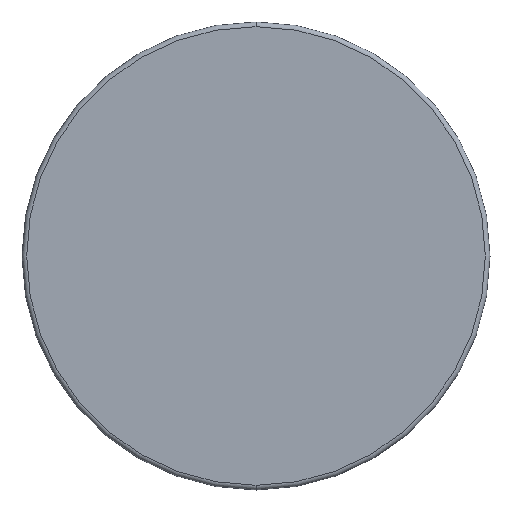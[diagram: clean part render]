
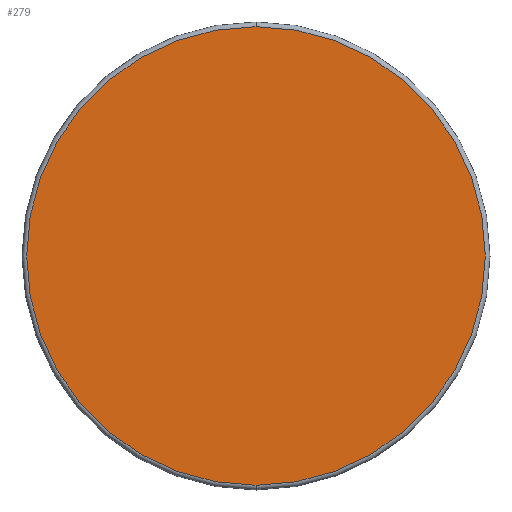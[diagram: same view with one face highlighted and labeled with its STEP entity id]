
A CAD part, front view. The second image highlights one B-rep face of the part: STEP entity #279.
In plain terms, the highlighted planar face has unit normal (0, -1, 0).
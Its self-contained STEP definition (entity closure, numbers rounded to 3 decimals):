
#71 = AXIS2_PLACEMENT_3D ( 'NONE', #495, #218, #1045 ) ;
#156 = ORIENTED_EDGE ( 'NONE', *, *, #824, .T. ) ;
#162 = DIRECTION ( 'NONE',  ( 0., -1., 0. ) ) ;
#218 = DIRECTION ( 'NONE',  ( 0., -1., 0. ) ) ;
#252 = DIRECTION ( 'NONE',  ( 0., 1., 0. ) ) ;
#255 = AXIS2_PLACEMENT_3D ( 'NONE', #629, #252, #1169 ) ;
#279 = ADVANCED_FACE ( 'NONE', ( #981 ), #993, .F. ) ;
#438 = DIRECTION ( 'NONE',  ( 0., 0., -1. ) ) ;
#495 = CARTESIAN_POINT ( 'NONE',  ( 0., 0., 0. ) ) ;
#514 = VERTEX_POINT ( 'NONE', #954 ) ;
#570 = CIRCLE ( 'NONE', #866, 49. ) ;
#573 = ORIENTED_EDGE ( 'NONE', *, *, #994, .T. ) ;
#589 = CIRCLE ( 'NONE', #71, 49. ) ;
#629 = CARTESIAN_POINT ( 'NONE',  ( 0., 0., 0. ) ) ;
#779 = CARTESIAN_POINT ( 'NONE',  ( 0., 0., 49. ) ) ;
#824 = EDGE_CURVE ( 'NONE', #1055, #514, #570, .T. ) ;
#866 = AXIS2_PLACEMENT_3D ( 'NONE', #1180, #162, #438 ) ;
#954 = CARTESIAN_POINT ( 'NONE',  ( 0., 0., -49. ) ) ;
#978 = EDGE_LOOP ( 'NONE', ( #573, #156 ) ) ;
#981 = FACE_OUTER_BOUND ( 'NONE', #978, .T. ) ;
#993 = PLANE ( 'NONE',  #255 ) ;
#994 = EDGE_CURVE ( 'NONE', #514, #1055, #589, .T. ) ;
#1045 = DIRECTION ( 'NONE',  ( 0., 0., -1. ) ) ;
#1055 = VERTEX_POINT ( 'NONE', #779 ) ;
#1169 = DIRECTION ( 'NONE',  ( 0., 0., 1. ) ) ;
#1180 = CARTESIAN_POINT ( 'NONE',  ( 0., 0., 0. ) ) ;
